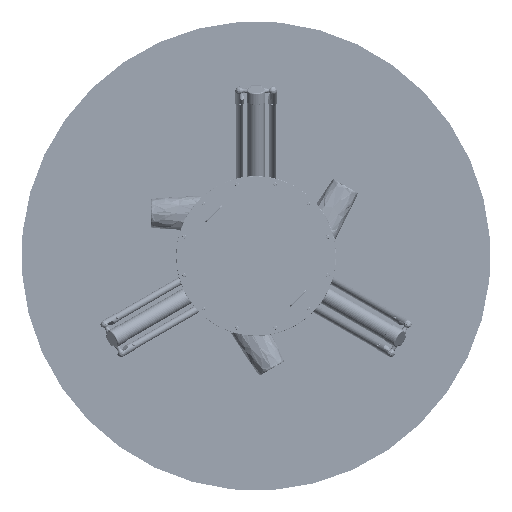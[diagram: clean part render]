
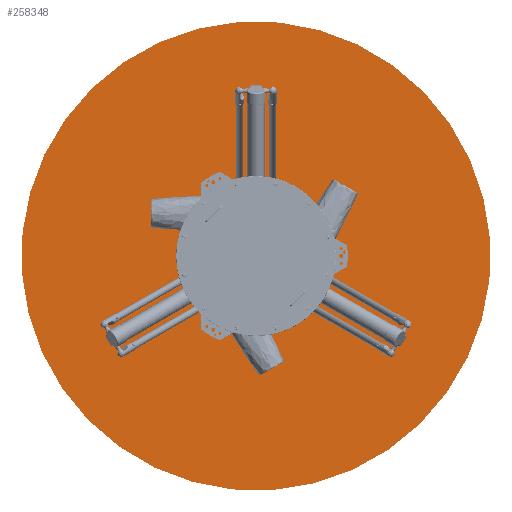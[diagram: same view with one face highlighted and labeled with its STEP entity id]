
A CAD part, front view. The second image highlights one B-rep face of the part: STEP entity #258348.
In plain terms, the highlighted planar face has unit normal (0, -1, 0) as drawn and (0, 1, 0) by its records, which use the part's own axes.
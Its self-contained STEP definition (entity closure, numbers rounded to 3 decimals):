
#7707 = AXIS2_PLACEMENT_3D ( 'NONE', #132594, #301936, #333233 ) ;
#44857 = AXIS2_PLACEMENT_3D ( 'NONE', #196948, #323720, #101429 ) ;
#53717 = EDGE_CURVE ( 'NONE', #380987, #380987, #105709, .T. ) ;
#67298 = PLANE ( 'NONE',  #44857 ) ;
#101429 = DIRECTION ( 'NONE',  ( 0., 0., -1. ) ) ;
#105709 = CIRCLE ( 'NONE', #7707, 1100. ) ;
#132594 = CARTESIAN_POINT ( 'NONE',  ( 0., 710., 0. ) ) ;
#137963 = ORIENTED_EDGE ( 'NONE', *, *, #53717, .T. ) ;
#147726 = EDGE_LOOP ( 'NONE', ( #137963 ) ) ;
#196948 = CARTESIAN_POINT ( 'NONE',  ( 0., 710., 0. ) ) ;
#214167 = CARTESIAN_POINT ( 'NONE',  ( 0., 710., 1100. ) ) ;
#258348 = ADVANCED_FACE ( 'NONE', ( #382252 ), #67298, .F. ) ;
#301936 = DIRECTION ( 'NONE',  ( 0., 1., 0. ) ) ;
#323720 = DIRECTION ( 'NONE',  ( 0., -1., 0. ) ) ;
#333233 = DIRECTION ( 'NONE',  ( 0., 0., 1. ) ) ;
#380987 = VERTEX_POINT ( 'NONE', #214167 ) ;
#382252 = FACE_OUTER_BOUND ( 'NONE', #147726, .T. ) ;
